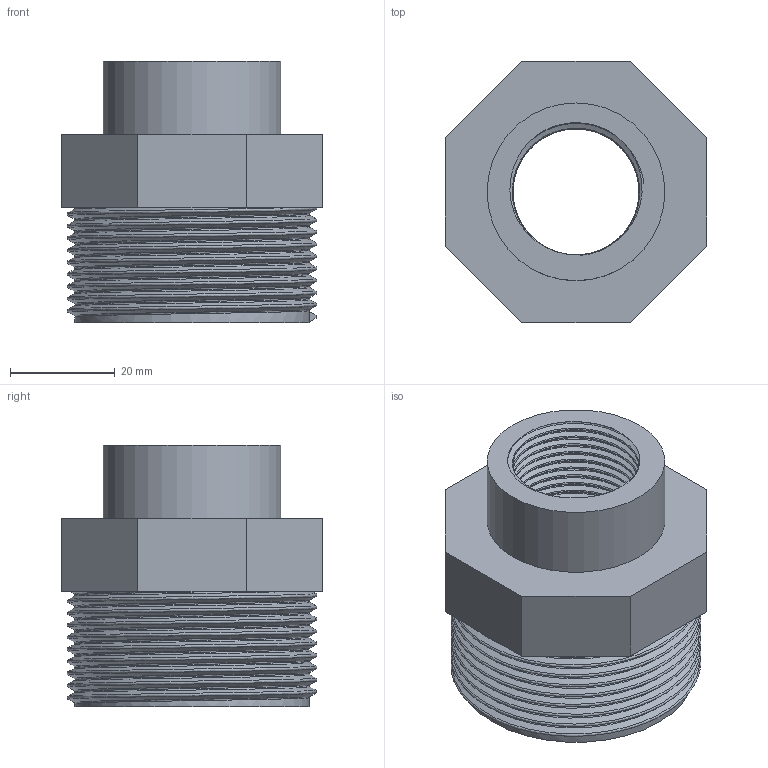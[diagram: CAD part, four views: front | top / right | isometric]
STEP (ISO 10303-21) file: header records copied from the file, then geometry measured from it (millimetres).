
FILE_DESCRIPTION(/* description */ (''),/* implementation_level */ '2;1');
FILE_NAME(/* name */ 'C:\Users\POLYPIPE\Desktop\DATASET INVENTOR\LIBRERIA EFFAST\RACCORDI 3DxWEB\RER\3D_RERRIE\3D_RERRIE050C.stp',/* time_stamp */ '2018-01-19T17:03:00+01:00',/* author */ ('POLYPIPE'),/* organization */ ('Polypipe Italia'),/* preprocessor_version */ 'ST-DEVELOPER v16.1',/* originating_system */ 'Autodesk Inventor 2016',/* authorisation */ '');
FILE_SCHEMA (('CONFIG_CONTROL_DESIGN'));
Length unit declared in the file: millimetre
Products named in the file (1): 3D_RERRIE050C
Bounding box: 50 x 50 x 50 mm (x, y, z)
Volume: 38369.8 mm3; surface area: 18137.8 mm2
Topology: 1 solids, 1 shells, 29 faces, 68 edges, 44 vertices
Faces by surface type: plane 15, bspline 10, cylinder 4
Full cylindrical faces by diameter (mm): 24.117 x1, 34 x1, 37.5 x1, 44.845 x1
Entity records: 8032 total; most frequent: CARTESIAN_POINT 7417, ORIENTED_EDGE 128, DIRECTION 94, EDGE_CURVE 64, VERTEX_POINT 43, EDGE_LOOP 37, AXIS2_PLACEMENT_3D 32, LINE 30
